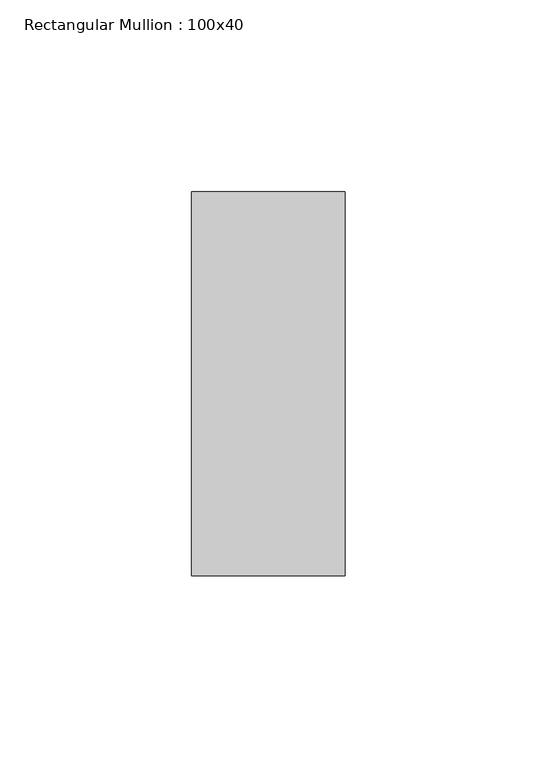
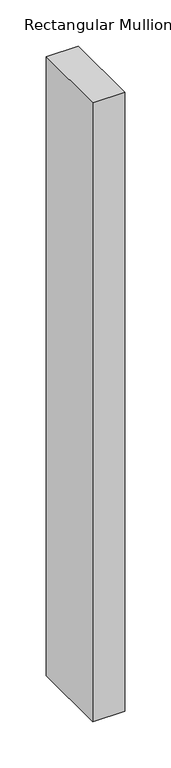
"""IFC4 building model written with IfcOpenShell, lengths in millimetres: member geometry, Rectangular Mullion : 100x40."""

from ifc_helpers import new_model, si_unit, frame, origin, place, context, project, spatial, polyline, outline, extrude, source, transform, mapped, element, save


def rectangular_mullion_100x40_bf89f555(model_context):
    return source(origin(), model_context, "Body", "SweptSolid", [
        extrude(outline(polyline([(20.0, 50.0), (20.0, -50.0), (-20.0, -50.0), (-20.0, 50.0), (20.0, 50.0)])), frame((0.0, 0.0, -816.6666667), z_axis=(0.0, 0.0, 1.0), x_axis=(1.0, 0.0, 0.0)), (0.0, 0.0, 1.0), 816.6666667),
    ])


if __name__ == "__main__":
    model = new_model("IFC4")
    model_context = context("Model", 3, world=origin())
    ifc_project = project(units=[si_unit("LENGTHUNIT", "METRE", prefix="MILLI")], contexts=[model_context])
    site = spatial("IfcSite", under=ifc_project)
    building = spatial("IfcBuilding", under=site)
    placement = place(None, origin())
    rectangular_mullion_100x40_shape = rectangular_mullion_100x40_bf89f555(model_context)
    element("IfcMember", 1, ObjectType="Rectangular Mullion : 100x40", at=placement, inside=building, context=model_context, shape_type="MappedRepresentation", body=[
        mapped(rectangular_mullion_100x40_shape, transform((0.0, 0.0, 0.0), x_axis=(1.0, 0.0, 0.0), y_axis=(0.0, 1.0, 0.0), z_axis=(0.0, 0.0, 1.0))),
    ])
    save(model, "model.ifc")
